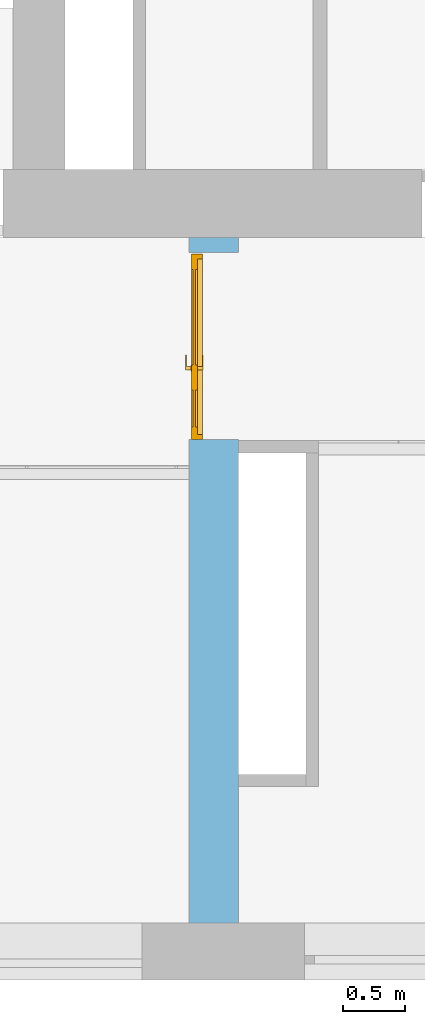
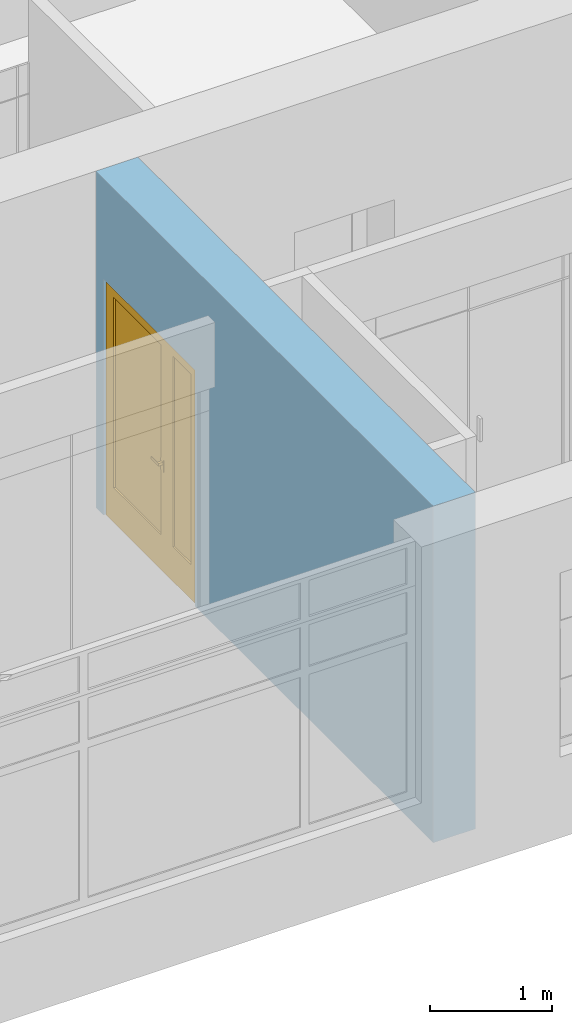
# One storey, part 62 of 66: 1 door, 3 openings, plus 1 element that does not belong to this part.
"""IFC2X3 building model written with IfcOpenShell, lengths in millimetres."""

import ifcopenshell
import ifcopenshell.guid

model = None  # the IFC model being written
_history = None  # IfcOwnerHistory: only IFC2X3 demands one
_inside = {}  # id of a spatial element -> (the spatial element, [elements in it])
_under = {}  # id of a project, library or spatial element -> (it, [spatial elements below it])
_declared = {}  # id of a project -> (the project, [libraries it declares])
_typed = {}  # id of a type object -> (the type object, [elements of that type])
_made_of = {}  # id of a material, layer set ... -> (it, [elements and type objects made of it])


def new_model(schema):
    """Start an empty IFC model of exactly this schema.

    Asked for "IFC4X3", IfcOpenShell would pick the latest addendum, in which some entities
    have other attributes; the version numbers below select the first issue.
    IFC2X3 requires an IfcOwnerHistory on every rooted entity: one is made here for all.
    """
    global model, _history
    if schema == "IFC4X3":
        model = ifcopenshell.file(schema_version=(4, 3, 0, 0))
    else:
        model = ifcopenshell.file(schema=schema)
    _inside.clear()
    _under.clear()
    _declared.clear()
    _typed.clear()
    _made_of.clear()
    _history = None
    if model.schema == "IFC2X3":
        org = make("IfcOrganization", Name="unknown")
        user = make(
            "IfcPersonAndOrganization",
            ThePerson=make("IfcPerson", FamilyName="unknown"),
            TheOrganization=org,
        )
        app = make(
            "IfcApplication",
            ApplicationDeveloper=org,
            Version="unknown",
            ApplicationFullName="unknown",
            ApplicationIdentifier="unknown",
        )
        _history = make(
            "IfcOwnerHistory",
            OwningUser=user,
            OwningApplication=app,
            ChangeAction="ADDED",
            CreationDate=0,
        )
    return model


def make(cls, **values):
    """One entity of the class cls with the attributes given. An attribute that is None is left unset."""
    return model.create_entity(
        cls, **{name: value for name, value in values.items() if value is not None}
    )


def entity(cls, *values):
    """Any entity or typed value of the class cls, its attributes in the order of the schema. None: left unset."""
    e = model.create_entity(cls)
    for i, value in enumerate(values):
        if value is not None:
            e[i] = value
    return e


def rooted(cls, **values):
    """An entity with a GlobalId (a new one), such as an element, a storey or a relation."""
    return make(cls, GlobalId=ifcopenshell.guid.new(), OwnerHistory=_history, **values)


def si_unit(unit_type, name, prefix=None):
    """IfcSIUnit, for example si_unit("LENGTHUNIT", "METRE", prefix="MILLI")."""
    return make("IfcSIUnit", UnitType=unit_type, Prefix=prefix, Name=name)


def converted_unit(unit_type, name, factor, base, dimensions=None, offset=None):
    """IfcConversionBasedUnit, such as the inch: factor (a typed value) times the base unit."""
    return make(
        "IfcConversionBasedUnit"
        if offset is None
        else "IfcConversionBasedUnitWithOffset",
        ConversionOffset=offset,
        Dimensions=None
        if dimensions is None
        else entity("IfcDimensionalExponents", *dimensions),
        UnitType=unit_type,
        Name=name,
        ConversionFactor=make(
            "IfcMeasureWithUnit", ValueComponent=factor, UnitComponent=base
        ),
    )


def derived_unit(unit_type, elements):
    """IfcDerivedUnit: a product of units, each with its exponent."""
    return make(
        "IfcDerivedUnit",
        Elements=[
            make("IfcDerivedUnitElement", Unit=unit, Exponent=power)
            for unit, power in elements
        ],
        UnitType=unit_type,
    )


def assignment(units):
    """IfcUnitAssignment: the units of a project."""
    return None if units is None else make("IfcUnitAssignment", Units=units)


def point(xyz):
    """IfcCartesianPoint."""
    return None if xyz is None else make("IfcCartesianPoint", Coordinates=xyz)


def direction(xyz):
    """IfcDirection."""
    return None if xyz is None else make("IfcDirection", DirectionRatios=xyz)


def frame(location, z_axis=None, x_axis=None):
    """IfcAxis2Placement3D, a coordinate frame: its origin and axes. An axis left out is left unset."""
    return make(
        "IfcAxis2Placement3D",
        Location=point(location),
        Axis=direction(z_axis),
        RefDirection=direction(x_axis),
    )


def frame_2d(location, x_axis=None):
    """IfcAxis2Placement2D, a coordinate frame in the plane: its origin and x axis."""
    return make(
        "IfcAxis2Placement2D", Location=point(location), RefDirection=direction(x_axis)
    )


def origin():
    """The frame at (0, 0, 0) with its axes left unset."""
    return frame((0.0, 0.0, 0.0))


def origin_2d_with_axis():
    """The frame at (0, 0) in the plane with the x axis (1, 0) written out."""
    return frame_2d((0.0, 0.0), x_axis=(1.0, 0.0))


def place(relative_to, where):
    """IfcLocalPlacement: puts the frame where relative to a parent placement (None: the world)."""
    return make(
        "IfcLocalPlacement", PlacementRelTo=relative_to, RelativePlacement=where
    )


def context(
    kind, dimensions, precision=None, world=None, true_north=None, identifier=None
):
    """IfcGeometricRepresentationContext, for example the 3D "Model" context."""
    return make(
        "IfcGeometricRepresentationContext",
        ContextIdentifier=identifier,
        ContextType=kind,
        CoordinateSpaceDimension=dimensions,
        Precision=precision,
        WorldCoordinateSystem=world,
        TrueNorth=true_north,
    )


def subcontext(parent, identifier, kind, view, scale=None):
    """IfcGeometricRepresentationSubContext, for example "Body" below "Model"."""
    return make(
        "IfcGeometricRepresentationSubContext",
        ContextIdentifier=identifier,
        ContextType=kind,
        ParentContext=parent,
        TargetScale=scale,
        TargetView=view,
    )


def project(units=None, contexts=None):
    """IfcProject with its units and contexts."""
    return rooted(
        "IfcProject",
        Name="project",
        RepresentationContexts=contexts,
        UnitsInContext=assignment(units),
    )


def spatial(cls, under=None, at=None, **own):
    """A site, building, storey or space (cls), placed at a placement, below another one or the project."""
    s = rooted(cls, ObjectPlacement=at, **own)
    if under is not None:
        _under.setdefault(under.id(), (under, []))[1].append(s)
    return s


def profile(cls, at=None, kind="AREA", **sizes):
    """A parametric profile (cls). Its sizes go by their IFC names, for example OverallWidth=200.0."""
    return make(cls, ProfileType=kind, Position=at, **sizes)


def rectangle(**sizes):
    """IfcRectangleProfileDef."""
    return profile("IfcRectangleProfileDef", **sizes)


def extrude(swept, where, along, depth):
    """IfcExtrudedAreaSolid: the profile swept, set in the frame where, extruded along a direction by depth."""
    return make(
        "IfcExtrudedAreaSolid",
        SweptArea=swept,
        Position=where,
        ExtrudedDirection=direction(along),
        Depth=depth,
    )


def faces_of(points, faces, orient=None, outer=None):
    """IfcFace entities. A face is a list of loops; a loop is a list of indices into points, from 0.

    orient and outer hold one flag for each loop. By default every Orientation is true, the
    first loop of a face is its IfcFaceOuterBound and the others are IfcFaceBound.
    """
    made = []
    for i, loops in enumerate(faces):
        bounds = []
        for j, loop in enumerate(loops):
            is_outer = j == 0 if outer is None else outer[i][j]
            bounds.append(
                make(
                    "IfcFaceOuterBound" if is_outer else "IfcFaceBound",
                    Bound=make("IfcPolyLoop", Polygon=[points[k] for k in loop]),
                    Orientation=True if orient is None else orient[i][j],
                )
            )
        made.append(make("IfcFace", Bounds=bounds))
    return made


def faceted_brep(points, faces, orient=None, outer=None, voids=None):
    """IfcFacetedBrep: a solid bounded by flat faces; with voids (closed shells), ...WithVoids."""
    shared = [point(p) for p in points]
    hull = make("IfcClosedShell", CfsFaces=faces_of(shared, faces, orient, outer))
    if voids is None:
        return make("IfcFacetedBrep", Outer=hull)
    return make(
        "IfcFacetedBrepWithVoids",
        Outer=hull,
        Voids=[
            make(cls, CfsFaces=faces_of(shared, fs, o, b)) for cls, fs, o, b in voids
        ],
    )


def shape(context_of_items, identifier, shape_type, items):
    """IfcShapeRepresentation: the items that make up one representation, for example the "Body"."""
    return make(
        "IfcShapeRepresentation",
        ContextOfItems=context_of_items,
        RepresentationIdentifier=identifier,
        RepresentationType=shape_type,
        Items=items,
    )


def source(mapping_origin, context_of_items, identifier, shape_type, items):
    """IfcRepresentationMap: a shape defined once, which mapped items show again and again."""
    return make(
        "IfcRepresentationMap",
        MappingOrigin=mapping_origin,
        MappedRepresentation=shape(context_of_items, identifier, shape_type, items),
    )


def transform(
    local_origin,
    x_axis=None,
    y_axis=None,
    z_axis=None,
    scale=None,
    scale2=None,
    scale3=None,
    uniform=True,
):
    """IfcCartesianTransformationOperator3D, or its non-uniform kind. x_axis, y_axis, z_axis: its Axis1, 2, 3."""
    if uniform:
        return make(
            "IfcCartesianTransformationOperator3D",
            Axis1=direction(x_axis),
            Axis2=direction(y_axis),
            LocalOrigin=point(local_origin),
            Scale=scale,
            Axis3=direction(z_axis),
        )
    return make(
        "IfcCartesianTransformationOperator3DnonUniform",
        Axis1=direction(x_axis),
        Axis2=direction(y_axis),
        LocalOrigin=point(local_origin),
        Scale=scale,
        Axis3=direction(z_axis),
        Scale2=scale2,
        Scale3=scale3,
    )


def mapped(mapping_source, mapping_target):
    """IfcMappedItem: shows the shape of a source again, moved by a transform."""
    return make(
        "IfcMappedItem", MappingSource=mapping_source, MappingTarget=mapping_target
    )


def material(Name=None, Category=None):
    """IfcMaterial."""
    return make("IfcMaterial", Name=Name, Category=Category)


def material_list(materials):
    """IfcMaterialList."""
    return make("IfcMaterialList", Materials=materials)


def layer(
    of_material, thickness, ventilated=None, Name=None, Category=None, Priority=None
):
    """IfcMaterialLayer: one layer of a wall or slab, of a material (None: an air gap)."""
    return make(
        "IfcMaterialLayer",
        Material=of_material,
        LayerThickness=thickness,
        IsVentilated=ventilated,
        Name=Name,
        Category=Category,
        Priority=Priority,
    )


def layer_set(layers, Name=None):
    """IfcMaterialLayerSet."""
    return make("IfcMaterialLayerSet", MaterialLayers=layers, LayerSetName=Name)


def layer_usage(for_layer_set, set_direction, sense, offset, extent=None):
    """IfcMaterialLayerSetUsage: how a layer set lies in its element."""
    return make(
        "IfcMaterialLayerSetUsage",
        ForLayerSet=for_layer_set,
        LayerSetDirection=set_direction,
        DirectionSense=sense,
        OffsetFromReferenceLine=offset,
        ReferenceExtent=extent,
    )


def made_of(thing, what):
    """Note that an element or type object is made of a material, layer set ...; save() writes the relation."""
    if what is not None:
        _made_of.setdefault(what.id(), (what, []))[1].append(thing)
    return thing


def type_object(cls, material=None, **own):
    """A type object (cls), such as IfcWallType, which elements share."""
    return made_of(rooted(cls, **own), material)


def type_shapes(of_type, sources):
    """Give a type object the sources (RepresentationMaps) that its elements show as mapped items."""
    of_type.RepresentationMaps = sources


def element(
    cls,
    number,
    at=None,
    inside=None,
    cuts=None,
    type_object=None,
    material=None,
    context=None,
    identifier="Body",
    shape_type=None,
    held_by="IfcProductDefinitionShape",
    body=None,
    shapes=None,
    **own,
):
    """One element of the class cls, such as IfcWall. Its Tag is "e" and its number.

    at: its placement. inside: the storey or other place that contains it. cuts: it is an
    opening in that element (IfcRelVoidsElement). A single representation is given by context,
    identifier, shape_type and body (its items); several are given by shapes. held_by: the class
    of the entity that holds the representations. save() writes the other relations.
    """
    e = rooted(cls, Tag="e%d" % number, ObjectPlacement=at, **own)
    if body is not None:
        shapes = [shape(context, identifier, shape_type, body)]
    if shapes is not None:
        e.Representation = make(held_by, Representations=shapes)
    if inside is not None:
        _inside.setdefault(inside.id(), (inside, []))[1].append(e)
    if cuts is not None:
        rooted(
            "IfcRelVoidsElement", RelatingBuildingElement=cuts, RelatedOpeningElement=e
        )
    if type_object is not None:
        _typed.setdefault(type_object.id(), (type_object, []))[1].append(e)
    return made_of(e, material)


def fill(opening, filler):
    """IfcRelFillsElement: the door or window that sits in an opening."""
    return rooted(
        "IfcRelFillsElement",
        RelatingOpeningElement=opening,
        RelatedBuildingElement=filler,
    )


def aggregate(whole, parts):
    """IfcRelAggregates: a whole, such as a stair, and the parts it consists of."""
    return rooted("IfcRelAggregates", RelatingObject=whole, RelatedObjects=parts)


def save(model, path):
    """Write the relations noted so far, then the file.

    IfcRelAggregates (storeys below a building ...), IfcRelContainedInSpatialStructure (elements
    in a storey), IfcRelDefinesByType, IfcRelAssociatesMaterial and IfcRelDeclares: one each for
    every whole, place, type object, material and project.
    """
    for whole, parts in _under.values():
        aggregate(whole, parts)
    for where, things in _inside.values():
        rooted(
            "IfcRelContainedInSpatialStructure",
            RelatedElements=things,
            RelatingStructure=where,
        )
    for kind, things in _typed.values():
        rooted("IfcRelDefinesByType", RelatedObjects=things, RelatingType=kind)
    for what, things in _made_of.values():
        rooted("IfcRelAssociatesMaterial", RelatedObjects=things, RelatingMaterial=what)
    for by, libraries in _declared.values():
        rooted("IfcRelDeclares", RelatingContext=by, RelatedDefinitions=libraries)
    model.write(path)


model = new_model("IFC2X3")

# Units and contexts
model_context = context("Model", 3, precision=0.01, world=origin(), true_north=direction((6.12303176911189e-17, 1.0)))
body_context = subcontext(model_context, "Body", "Model", "MODEL_VIEW")
ifc_project = project(units=[si_unit("LENGTHUNIT", "METRE", prefix="MILLI"), si_unit("AREAUNIT", "SQUARE_METRE"), si_unit("VOLUMEUNIT", "CUBIC_METRE"), converted_unit("PLANEANGLEUNIT", "DEGREE", entity("IfcRatioMeasure", 0.0174532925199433), si_unit("PLANEANGLEUNIT", "RADIAN"), dimensions=[0, 0, 0, 0, 0, 0, 0]), si_unit("MASSUNIT", "GRAM", prefix="KILO"), derived_unit("MASSDENSITYUNIT", [(si_unit("MASSUNIT", "GRAM", prefix="KILO"), 1), (si_unit("LENGTHUNIT", "METRE"), -3)]), si_unit("TIMEUNIT", "SECOND"), si_unit("FREQUENCYUNIT", "HERTZ"), si_unit("THERMODYNAMICTEMPERATUREUNIT", "DEGREE_CELSIUS"), derived_unit("THERMALTRANSMITTANCEUNIT", [(si_unit("MASSUNIT", "GRAM", prefix="KILO"), 1), (si_unit("THERMODYNAMICTEMPERATUREUNIT", "KELVIN"), -1), (si_unit("TIMEUNIT", "SECOND"), -3)]), derived_unit("VOLUMETRICFLOWRATEUNIT", [(si_unit("LENGTHUNIT", "METRE"), 3), (si_unit("TIMEUNIT", "SECOND"), -1)]), si_unit("ELECTRICCURRENTUNIT", "AMPERE"), si_unit("ELECTRICVOLTAGEUNIT", "VOLT"), si_unit("POWERUNIT", "WATT"), si_unit("FORCEUNIT", "NEWTON", prefix="KILO"), si_unit("ILLUMINANCEUNIT", "LUX"), si_unit("LUMINOUSFLUXUNIT", "LUMEN"), si_unit("LUMINOUSINTENSITYUNIT", "CANDELA"), derived_unit("USERDEFINED", [(si_unit("MASSUNIT", "GRAM", prefix="KILO"), -1), (si_unit("LENGTHUNIT", "METRE"), -2), (si_unit("TIMEUNIT", "SECOND"), 3), (si_unit("LUMINOUSFLUXUNIT", "LUMEN"), 1)]), derived_unit("LINEARVELOCITYUNIT", [(si_unit("LENGTHUNIT", "METRE"), 1), (si_unit("TIMEUNIT", "SECOND"), -1)]), si_unit("PRESSUREUNIT", "PASCAL"), derived_unit("USERDEFINED", [(si_unit("LENGTHUNIT", "METRE"), -2), (si_unit("MASSUNIT", "GRAM", prefix="KILO"), 1), (si_unit("TIMEUNIT", "SECOND"), -2)])], contexts=[model_context])

# Site, building, storey
site_placement = place(None, frame((-151.875543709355, 2715.0, 0.0)))
site = spatial("IfcSite", under=ifc_project, at=site_placement, Name="Surface", CompositionType="ELEMENT")
building_placement = place(site_placement, origin())
building = spatial("IfcBuilding", under=site, at=building_placement, CompositionType="ELEMENT")
storey_placement = place(building_placement, frame((0.0, 0.0, 3350.0)))
storey = spatial("IfcBuildingStorey", under=building, at=storey_placement, Name="2 korrus", CompositionType="ELEMENT", Elevation=3350.00000000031)

# Wall, openings, door
ifc_material_1 = material(Name="__Hall krohv")
ifc_layer_1 = layer(ifc_material_1, 10.0)
ifc_material_2 = material(Name="Tellis")
ifc_layer_2 = layer(ifc_material_2, 380.0)
ifc_layer_3 = layer(ifc_material_1, 10.0)
ifc_layer_set = layer_set([ifc_layer_1, ifc_layer_2, ifc_layer_3], Name="Basic Wall:SS-01_ol.olev tellissein400")
ifc_layer_usage = layer_usage(ifc_layer_set, "AXIS2", "NEGATIVE", 200.0)
wall_type = type_object("IfcWallType", Name="Basic Wall:SS-01_ol.olev tellissein400", PredefinedType="STANDARD", material=ifc_layer_set)
wall_placement = place(storey_placement, frame((6162.49352943, 459.904632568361, 0.0), z_axis=(0.0, 0.0, 1.0), x_axis=(0.0, 1.0, 0.0)))
wall = element("IfcWallStandardCase", 1, at=wall_placement, inside=storey, type_object=wall_type, material=ifc_layer_usage, Name="SEIN - 001", ObjectType="Basic Wall:SS-01_ol.olev tellissein400", context=body_context, shape_type="SweptSolid", body=[
    extrude(rectangle(XDim=5550.09536743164, YDim=400.0, at=frame_2d((2775.04768371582, 0.0), x_axis=(-1.0, 0.0))), origin(), (0.0, 0.0, 1.0), 3380.43203354),
])
opening_1_placement = place(wall_placement, origin())
element("IfcOpeningElement", 2, at=opening_1_placement, cuts=wall, Name="SEIN - 001", ObjectType="Opening", context=body_context, shape_type="SweptSolid", body=[
    extrude(rectangle(XDim=2371.07076645, YDim=1510.16235352, at=origin_2d_with_axis()), frame((4671.45356888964, -200.0, 1185.53538322), z_axis=(0.0, 1.0, 0.0), x_axis=(0.0, 0.0, -1.0)), (0.0, 0.0, 1.0), 800.0),
])
opening_2_placement = place(wall_placement, origin())
element("IfcOpeningElement", 3, at=opening_2_placement, cuts=wall, Name="SEIN - 001", ObjectType="Opening", context=body_context, shape_type="SweptSolid", body=[
    extrude(rectangle(XDim=2199.99999999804, YDim=1500.0, at=frame_2d((0.0, 5.11590769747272e-13), x_axis=(1.0, 0.0))), frame((4666.37239212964, -1724.0, 4480.42999999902), z_axis=(0.0, 1.0, 0.0), x_axis=(0.0, 0.0, 1.0)), (0.0, 0.0, 1.0), 3048.0),
])
opening_3_placement = place(wall_placement, frame((3916.37239212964, -200.0, 0.0)))
opening_3 = element("IfcOpeningElement", 4, at=opening_3_placement, cuts=wall, Name="Kahepoolsed:SU-22:1", ObjectType="Opening", context=body_context, shape_type="SweptSolid", body=[
    extrude(rectangle(XDim=2359.99999999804, YDim=1500.0, at=frame_2d((1179.99999999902, 750.0), x_axis=(1.0, 0.0))), frame((0.0, 0.0, 0.0), z_axis=(0.0, 1.0, 0.0), x_axis=(0.0, 0.0, 1.0)), (0.0, 0.0, 1.0), 400.0),
])
ifc_material_3 = material(Name="_Alumiiniumprofiil - must")
ifc_material_4 = material(Name="__Uks_hele tamm")
ifc_material_5 = material(Name="EP Tavallinen lasi")
ifc_material_list_1 = material_list([ifc_material_3, ifc_material_4, ifc_material_5])
ifc_material_list_2 = material_list([ifc_material_3, ifc_material_4, ifc_material_5])
door_style = type_object("IfcDoorStyle", Name="SU-22", ConstructionType="NOTDEFINED", OperationType="FOLDING_TO_RIGHT", ParameterTakesPrecedence=False, Sizeable=False, material=ifc_material_list_2)
shared_shape = source(origin(), body_context, "Body", "Brep", [
    faceted_brep([(520.260051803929, 290.0, 1100.0), (520.260051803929, 328.0, 1100.0), (495.260051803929, 328.0, 1100.0), (495.260051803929, 285.0, 1100.0), (615.260051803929, 285.0, 1100.0), (615.260051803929, 290.0, 1100.0), (520.260051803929, 290.0, 1075.0), (615.260051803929, 290.0, 1075.0), (615.260051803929, 285.0, 1075.0), (495.260051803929, 285.0, 1075.0), (495.260051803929, 328.0, 1075.0), (520.260051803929, 328.0, 1075.0)], [[[0, 1, 2, 3, 4, 5]], [[6, 7, 8, 9, 10, 11]], [[1, 0, 6, 11]], [[2, 1, 11, 10]], [[3, 2, 10, 9]], [[4, 3, 9, 8]], [[5, 4, 8, 7]], [[0, 5, 7, 6]]]),
    faceted_brep([(532.760051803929, 328.0, 1125.0), (532.760051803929, 330.0, 1125.0), (482.760051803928, 330.0, 1125.0), (482.760051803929, 328.0, 1125.0), (532.760051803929, 328.0, 1005.0), (482.760051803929, 328.0, 1005.0), (482.760051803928, 330.0, 1005.0), (532.760051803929, 330.0, 1005.0)], [[[0, 1, 2, 3]], [[4, 5, 6, 7]], [[1, 0, 4, 7]], [[2, 1, 7, 6]], [[3, 2, 6, 5]], [[0, 3, 5, 4]]]),
    faceted_brep([(520.26005180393, 420.0, 1100.0), (615.26005180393, 420.0, 1100.0), (615.26005180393, 425.0, 1100.0), (495.26005180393, 425.0, 1100.0), (495.26005180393, 382.0, 1100.0), (520.26005180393, 382.0, 1100.0), (520.26005180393, 420.0, 1075.0), (520.26005180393, 382.0, 1075.0), (495.26005180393, 382.0, 1075.0), (495.26005180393, 425.0, 1075.0), (615.26005180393, 425.0, 1075.0), (615.26005180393, 420.0, 1075.0)], [[[0, 1, 2, 3, 4, 5]], [[6, 7, 8, 9, 10, 11]], [[5, 7, 6, 0]], [[4, 8, 7, 5]], [[3, 9, 8, 4]], [[2, 10, 9, 3]], [[1, 11, 10, 2]], [[0, 6, 11, 1]]]),
    faceted_brep([(532.76005180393, 382.0, 1125.0), (482.76005180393, 382.0, 1125.0), (482.76005180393, 380.0, 1125.0), (532.76005180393, 380.0, 1125.0), (532.76005180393, 382.0, 1005.0), (532.76005180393, 380.0, 1005.0), (482.76005180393, 380.0, 1005.0), (482.76005180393, 382.0, 1005.0)], [[[0, 1, 2, 3]], [[4, 5, 6, 7]], [[3, 5, 4, 0]], [[2, 6, 5, 3]], [[1, 7, 6, 2]], [[0, 4, 7, 1]]]),
    faceted_brep([(-27.2399481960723, 290.0, 30.0), (-27.2399481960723, 330.0, 30.0), (-27.2399481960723, 330.0, 20.0), (-27.2399481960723, 330.0, 0.0), (-27.2399481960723, 290.0, 0.0), (1392.76005180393, 290.0, 30.0), (1392.76005180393, 290.0, 0.0), (1392.76005180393, 330.0, 0.0), (1392.76005180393, 330.0, 20.0), (1392.76005180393, 330.0, 30.0), (-42.2399481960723, 330.0, 0.0), (-42.2399481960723, 380.0, 0.0), (1407.76005180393, 380.0, 0.0), (1407.76005180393, 330.0, 0.0), (-42.2399481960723, 380.0, 20.0), (-42.2399481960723, 330.0, 20.0), (1407.76005180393, 380.0, 20.0), (1407.76005180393, 330.0, 20.0)], [[[0, 1, 2, 3, 4]], [[5, 6, 7, 8, 9]], [[4, 6, 5, 0]], [[3, 10, 11, 12, 13, 7, 6, 4]], [[9, 8, 2, 1]], [[0, 5, 9, 1]], [[14, 11, 10, 15]], [[16, 17, 13, 12]], [[15, 2, 8, 17, 16, 14]], [[10, 3, 2, 15]], [[14, 16, 12, 11]], [[17, 8, 7, 13]]]),
    faceted_brep([(-67.2399481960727, 290.0, 0.0), (-67.239948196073, 380.0, 0.0), (-42.239948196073, 380.0, 0.0), (-42.2399481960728, 330.0, 0.0), (-27.2399481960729, 330.0, 0.0), (-27.2399481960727, 290.0, 0.0), (-27.2399481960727, 290.0, 2320.0), (1392.76005180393, 290.0, 2320.0), (1392.76005180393, 290.0, 0.0), (1432.76005180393, 290.0, 0.0), (1432.76005180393, 290.0, 2360.0), (-67.2399481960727, 290.0, 2360.0), (-27.2399481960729, 330.0, 2320.0), (-42.2399481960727, 330.0, 2335.0), (1407.76005180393, 330.0, 2335.0), (1407.76005180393, 330.0, 0.0), (1392.76005180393, 330.0, 0.0), (1392.76005180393, 330.0, 2320.0), (-42.239948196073, 380.0, 2335.0), (-67.2399481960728, 380.0, 2360.0), (1432.76005180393, 380.0, 2360.0), (1432.76005180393, 380.0, 0.0), (1407.76005180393, 380.0, 0.0), (1407.76005180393, 380.0, 2335.0)], [[[0, 1, 2, 3, 4, 5]], [[5, 6, 7, 8, 9, 10, 11, 0]], [[4, 12, 6, 5]], [[3, 13, 14, 15, 16, 17, 12, 4]], [[2, 18, 13, 3]], [[1, 19, 20, 21, 22, 23, 18, 2]], [[0, 11, 19, 1]], [[9, 21, 20, 10]], [[8, 16, 15, 22, 21, 9]], [[7, 17, 16, 8]], [[14, 23, 22, 15]], [[6, 12, 17, 7]], [[13, 18, 23, 14]], [[10, 20, 19, 11]]]),
    faceted_brep([(1307.76005180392, 345.0, 350.0), (1307.76005180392, 345.0, 2260.0), (532.760051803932, 345.0, 2260.0), (532.760051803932, 345.0, 350.0), (1307.76005180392, 365.0, 350.0), (532.760051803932, 365.0, 350.0), (532.760051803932, 365.0, 2260.0), (1307.76005180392, 365.0, 2260.0)], [[[0, 1, 2, 3]], [[4, 5, 6, 7]], [[3, 5, 4, 0]], [[2, 6, 5, 3]], [[1, 7, 6, 2]], [[0, 4, 7, 1]]]),
    faceted_brep([(332.760051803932, 345.0, 350.0), (332.760051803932, 345.0, 2260.0), (32.7600518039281, 345.0, 2260.0), (32.7600518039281, 345.0, 350.0), (332.760051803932, 365.0, 350.0), (32.7600518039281, 365.0, 350.0), (32.7600518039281, 365.0, 2260.0), (332.760051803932, 365.0, 2260.0)], [[[0, 1, 2, 3]], [[4, 5, 6, 7]], [[3, 5, 4, 0]], [[2, 6, 5, 3]], [[1, 7, 6, 2]], [[0, 4, 7, 1]]]),
    faceted_brep([(432.760051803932, 330.0, 2335.0), (432.760051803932, 330.0, 20.0), (1407.76005180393, 330.0, 20.0), (1407.76005180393, 330.0, 2335.0), (1307.76005180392, 330.0, 350.0), (532.760051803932, 330.0, 350.0), (532.760051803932, 330.0, 2260.0), (1307.76005180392, 330.0, 2260.0), (432.760051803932, 380.0, 2335.0), (1407.76005180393, 380.0, 2335.0), (1407.76005180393, 380.0, 20.0), (432.760051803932, 380.0, 20.0), (1307.76005180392, 380.0, 2260.0), (532.760051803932, 380.0, 2260.0), (532.760051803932, 380.0, 350.0), (1307.76005180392, 380.0, 350.0)], [[[0, 1, 2, 3], [4, 5, 6, 7]], [[8, 9, 10, 11], [12, 13, 14, 15]], [[3, 9, 8, 0]], [[2, 10, 9, 3]], [[1, 11, 10, 2]], [[0, 8, 11, 1]], [[12, 15, 4, 7]], [[15, 14, 5, 4]], [[14, 13, 6, 5]], [[7, 6, 13, 12]]]),
    faceted_brep([(432.760051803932, 330.0, 2335.0), (-42.2399481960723, 330.0, 2335.0), (-42.2399481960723, 330.0, 20.0), (432.760051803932, 330.0, 20.0), (332.760051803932, 330.0, 350.0), (32.7600518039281, 330.0, 350.0), (32.7600518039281, 330.0, 2260.0), (332.760051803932, 330.0, 2260.0), (432.760051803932, 380.0, 2335.0), (432.760051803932, 380.0, 20.0), (-42.2399481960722, 380.0, 20.0), (-42.2399481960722, 380.0, 2335.0), (332.760051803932, 380.0, 2260.0), (32.7600518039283, 380.0, 2260.0), (32.7600518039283, 380.0, 350.0), (332.760051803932, 380.0, 350.0)], [[[0, 1, 2, 3], [4, 5, 6, 7]], [[8, 9, 10, 11], [12, 13, 14, 15]], [[3, 9, 8, 0]], [[2, 10, 9, 3]], [[1, 11, 10, 2]], [[0, 8, 11, 1]], [[12, 15, 4, 7]], [[15, 14, 5, 4]], [[14, 13, 6, 5]], [[7, 6, 13, 12]]]),
])
type_shapes(door_style, [shared_shape])
door_placement = place(opening_3_placement, frame((67.2399481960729, 0.0, 0.0)))
door = element("IfcDoor", 5, at=door_placement, inside=storey, type_object=door_style, material=ifc_material_list_1, Name="Kahepoolsed:SU-22", ObjectType="SU-22", OverallHeight=2359.99999999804, OverallWidth=1500.0, context=body_context, shape_type="MappedRepresentation", body=[
    mapped(shared_shape, transform((0.0, 0.0, 0.0), scale=1.0)),
])
fill(opening_3, door)

save(model, "model.ifc")
